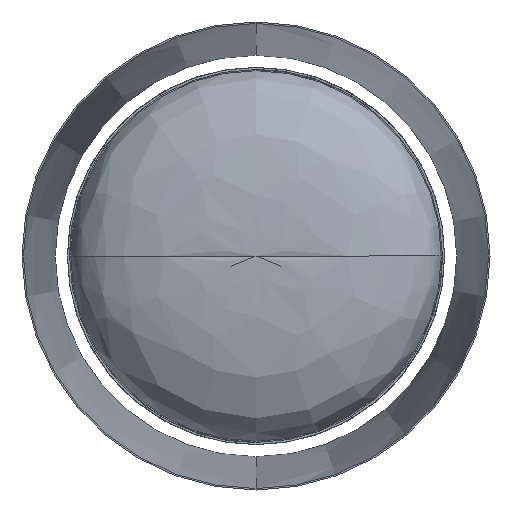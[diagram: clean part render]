
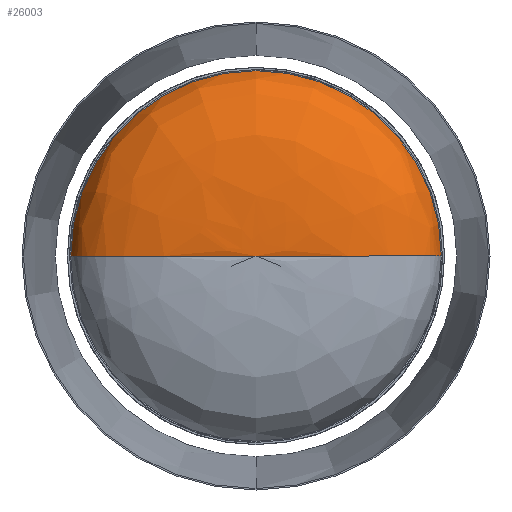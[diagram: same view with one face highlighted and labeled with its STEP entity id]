
A CAD part, front view. The second image highlights one B-rep face of the part: STEP entity #26003.
In plain terms, the highlighted free-form (B-spline) face has degree [3, 3] with [5, 4] control points.
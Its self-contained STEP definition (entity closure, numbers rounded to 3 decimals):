
#840 = VERTEX_POINT ( 'NONE', #21425 ) ;
#866 = CARTESIAN_POINT ( 'NONE',  ( -42.156, -70., 0. ) ) ;
#2851 = CARTESIAN_POINT ( 'NONE',  ( 42.156, -70., 0. ) ) ;
#3958 = CARTESIAN_POINT ( 'NONE',  ( 111.871, -71.112, 223.743 ) ) ;
#4817 = CARTESIAN_POINT ( 'NONE',  ( 191.581, -6.5, 0. ) ) ;
#6597 = FACE_OUTER_BOUND ( 'NONE', #30146, .T. ) ;
#7344 = CARTESIAN_POINT ( 'NONE',  ( -191.581, -6.5, 0. ) ) ;
#8730 = CARTESIAN_POINT ( 'NONE',  ( 191.581, -6.5, 383.162 ) ) ;
#9178 = ORIENTED_EDGE ( 'NONE', *, *, #23836, .T. ) ;
#9429 = CARTESIAN_POINT ( 'NONE',  ( 111.871, -71.112, 0. ) ) ;
#10042 = ORIENTED_EDGE ( 'NONE', *, *, #18978, .F. ) ;
#10456 = CARTESIAN_POINT ( 'NONE',  ( 191.581, -6.5, 0. ) ) ;
#11375 = CARTESIAN_POINT ( 'NONE',  ( -42.156, -70., 0. ) ) ;
#11641 = CARTESIAN_POINT ( 'NONE',  ( -191.581, -6.5, 0. ) ) ;
#12959 = EDGE_CURVE ( 'NONE', #840, #26532, #16638, .T. ) ;
#13627 = CARTESIAN_POINT ( 'NONE',  ( 111.871, -71.112, 0. ) ) ;
#14198 = CARTESIAN_POINT ( 'NONE',  ( 0., -70., 0. ) ) ;
#16291 = VERTEX_POINT ( 'NONE', #17333 ) ;
#16638 = CIRCLE ( 'NONE', #34723, 191.581 ) ;
#16685 = CARTESIAN_POINT ( 'NONE',  ( 186.266, -38.281, 372.532 ) ) ;
#16815 = CARTESIAN_POINT ( 'NONE',  ( 0., -6.5, 0. ) ) ;
#17034 = ORIENTED_EDGE ( 'NONE', *, *, #12959, .T. ) ;
#17214 = CARTESIAN_POINT ( 'NONE',  ( 0., -70., 0. ) ) ;
#17304 = CARTESIAN_POINT ( 'NONE',  ( -186.266, -38.281, 0. ) ) ;
#17333 = CARTESIAN_POINT ( 'NONE',  ( 0., -70., 0. ) ) ;
#17389 = CARTESIAN_POINT ( 'NONE',  ( 42.156, -70., 84.312 ) ) ;
#18928 = B_SPLINE_CURVE_WITH_KNOTS ( 'NONE', 3,
 ( #34188, #2851, #13627, #29376, #10456 ),
 .UNSPECIFIED., .F., .F.,
 ( 4, 1, 4 ),
 ( 0., 0.579, 0.987 ),
 .UNSPECIFIED. ) ;
#18978 = EDGE_CURVE ( 'NONE', #16291, #26532, #27073, .T. ) ;
#19284 = DIRECTION ( 'NONE',  ( 0., 0., 1. ) ) ;
#19507 = CARTESIAN_POINT ( 'NONE',  ( -111.871, -71.112, 223.743 ) ) ;
#20203 = CARTESIAN_POINT ( 'NONE',  ( -186.266, -38.281, 372.532 ) ) ;
#21425 = CARTESIAN_POINT ( 'NONE',  ( 191.581, -6.5, 0. ) ) ;
#22167 = CARTESIAN_POINT ( 'NONE',  ( -42.156, -70., 84.312 ) ) ;
#22784 = CARTESIAN_POINT ( 'NONE',  ( -111.871, -71.112, 0. ) ) ;
#22875 = CARTESIAN_POINT ( 'NONE',  ( -111.871, -71.112, 0. ) ) ;
#23836 = EDGE_CURVE ( 'NONE', #16291, #840, #18928, .T. ) ;
#25097 = CARTESIAN_POINT ( 'NONE',  ( 0., -70., 0. ) ) ;
#26003 = ADVANCED_FACE ( 'NONE', ( #6597 ), #28059, .F. ) ;
#26532 = VERTEX_POINT ( 'NONE', #7344 ) ;
#27073 = B_SPLINE_CURVE_WITH_KNOTS ( 'NONE', 3,
 ( #25097, #866, #22784, #17304, #11641 ),
 .UNSPECIFIED., .F., .F.,
 ( 4, 1, 4 ),
 ( 0., 0.579, 0.987 ),
 .UNSPECIFIED. ) ;
#27437 = DIRECTION ( 'NONE',  ( 0., -1., 0. ) ) ;
#27478 = CARTESIAN_POINT ( 'NONE',  ( -191.581, -6.5, 0. ) ) ;
#28013 = CARTESIAN_POINT ( 'NONE',  ( 0., -70., 0. ) ) ;
#28059 =( BOUNDED_SURFACE ( )  B_SPLINE_SURFACE ( 3, 3, ( 
 ( #14198, #30667, #17214, #28013 ),
 ( #11375, #22167, #17389, #28181 ),
 ( #22875, #19507, #3958, #9429 ),
 ( #33679, #20203, #16685, #31025 ),
 ( #27478, #32982, #8730, #4817 ) ),
 .UNSPECIFIED., .F., .F., .T. ) 
 B_SPLINE_SURFACE_WITH_KNOTS ( ( 4, 1, 4 ),
 ( 4, 4 ),
 ( 0., 0.579, 0.987 ),
 ( 0., 1. ),
 .UNSPECIFIED. ) 
 GEOMETRIC_REPRESENTATION_ITEM ( )  RATIONAL_B_SPLINE_SURFACE ( (
 ( 1., 0.333, 0.333, 1.),
 ( 1., 0.333, 0.333, 1.),
 ( 1., 0.333, 0.333, 1.),
 ( 1., 0.333, 0.333, 1.),
 ( 1., 0.333, 0.333, 1.) ) ) 
 REPRESENTATION_ITEM ( '' )  SURFACE ( )  );
#28181 = CARTESIAN_POINT ( 'NONE',  ( 42.156, -70., 0. ) ) ;
#29376 = CARTESIAN_POINT ( 'NONE',  ( 186.266, -38.281, 0. ) ) ;
#30146 = EDGE_LOOP ( 'NONE', ( #10042, #9178, #17034 ) ) ;
#30667 = CARTESIAN_POINT ( 'NONE',  ( 0., -70., 0. ) ) ;
#31025 = CARTESIAN_POINT ( 'NONE',  ( 186.266, -38.281, 0. ) ) ;
#32982 = CARTESIAN_POINT ( 'NONE',  ( -191.581, -6.5, 383.162 ) ) ;
#33679 = CARTESIAN_POINT ( 'NONE',  ( -186.266, -38.281, 0. ) ) ;
#34188 = CARTESIAN_POINT ( 'NONE',  ( 0., -70., 0. ) ) ;
#34723 = AXIS2_PLACEMENT_3D ( 'NONE', #16815, #27437, #19284 ) ;
